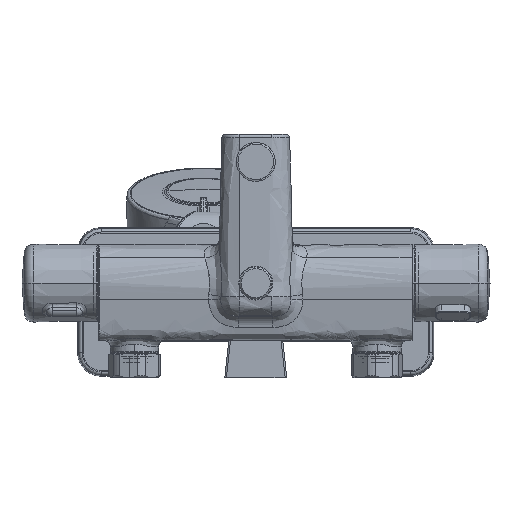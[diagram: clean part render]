
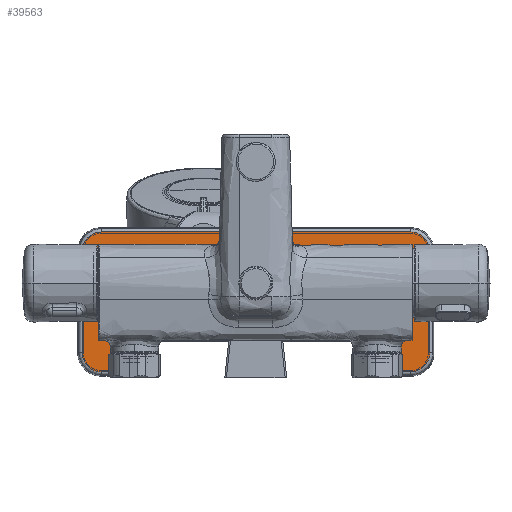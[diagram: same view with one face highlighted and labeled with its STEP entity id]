
A CAD part, front view. The second image highlights one B-rep face of the part: STEP entity #39563.
In plain terms, the highlighted planar face has unit normal (0, -1, 0).
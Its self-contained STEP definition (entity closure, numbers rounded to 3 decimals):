
#110 = CARTESIAN_POINT ( 'NONE',  ( 227.892, 274.92, 286.972 ) ) ;
#548 = CARTESIAN_POINT ( 'NONE',  ( 24.773, 274.92, 361.583 ) ) ;
#591 = CARTESIAN_POINT ( 'NONE',  ( 12.775, 274.92, 356.613 ) ) ;
#673 = CARTESIAN_POINT ( 'NONE',  ( 37.926, 274.92, 287.001 ) ) ;
#682 = LINE ( 'NONE', #26278, #26071 ) ;
#955 = CARTESIAN_POINT ( 'NONE',  ( 12.775, 274.92, 286.972 ) ) ;
#1010 = CARTESIAN_POINT ( 'NONE',  ( 120.246, 274.92, 274.974 ) ) ;
#2040 = CARTESIAN_POINT ( 'NONE',  ( 202.566, 274.92, 287.001 ) ) ;
#2089 = LINE ( 'NONE', #33082, #34950 ) ;
#2486 = EDGE_CURVE ( 'NONE', #17474, #3223, #25484, .T. ) ;
#2895 = CARTESIAN_POINT ( 'NONE',  ( 12.775, 274.92, 349.585 ) ) ;
#3223 = VERTEX_POINT ( 'NONE', #19253 ) ;
#3624 = VERTEX_POINT ( 'NONE', #5604 ) ;
#3738 = PLANE ( 'NONE',  #34652 ) ;
#3873 = VECTOR ( 'NONE', #6702, 1000. ) ;
#3905 = VERTEX_POINT ( 'NONE', #11925 ) ;
#5237 = AXIS2_PLACEMENT_3D ( 'NONE', #17726, #36824, #14507 ) ;
#5342 = VECTOR ( 'NONE', #20028, 1000. ) ;
#5604 = CARTESIAN_POINT ( 'NONE',  ( 195.566, 274.92, 294.001 ) ) ;
#6464 = EDGE_CURVE ( 'NONE', #3905, #38749, #24607, .T. ) ;
#6473 = VERTEX_POINT ( 'NONE', #110 ) ;
#6702 = DIRECTION ( 'NONE',  ( -1., 0., 0. ) ) ;
#6909 = ORIENTED_EDGE ( 'NONE', *, *, #6464, .T. ) ;
#7890 = DIRECTION ( 'NONE',  ( 0., 0., 1. ) ) ;
#8650 = CARTESIAN_POINT ( 'NONE',  ( 227.892, 274.92, 271.966 ) ) ;
#8652 = EDGE_LOOP ( 'NONE', ( #25812, #18621, #31865, #10867, #37094, #34621, #11071, #41052, #13441, #35480, #14729, #29510, #6909, #30424 ) ) ;
#9240 = VECTOR ( 'NONE', #30913, 1000. ) ;
#9334 = LINE ( 'NONE', #36859, #18773 ) ;
#9536 = LINE ( 'NONE', #12284, #31953 ) ;
#10047 = VERTEX_POINT ( 'NONE', #39850 ) ;
#10356 = CARTESIAN_POINT ( 'NONE',  ( 17.744, 274.92, 274.974 ) ) ;
#10513 = EDGE_CURVE ( 'NONE', #38749, #35388, #9334, .T. ) ;
#10616 = CARTESIAN_POINT ( 'NONE',  ( 120.246, 274.92, 361.583 ) ) ;
#10623 = CARTESIAN_POINT ( 'NONE',  ( 202.566, 274.92, 274.974 ) ) ;
#10811 = DIRECTION ( 'NONE',  ( 0., 0., 1. ) ) ;
#10867 = ORIENTED_EDGE ( 'NONE', *, *, #2486, .T. ) ;
#11071 = ORIENTED_EDGE ( 'NONE', *, *, #14928, .T. ) ;
#11247 = CARTESIAN_POINT ( 'NONE',  ( 222.923, 274.92, 361.583 ) ) ;
#11296 = LINE ( 'NONE', #10616, #3873 ) ;
#11718 = EDGE_CURVE ( 'NONE', #10047, #3905, #11296, .T. ) ;
#11761 =( BOUNDED_CURVE ( )  B_SPLINE_CURVE ( 3, ( #37310, #14988, #40520, #21406 ),
 .UNSPECIFIED., .F., .F. ) 
 B_SPLINE_CURVE_WITH_KNOTS ( ( 4, 4 ),
 ( 2.356, 3.927 ),
 .UNSPECIFIED. ) 
 CURVE ( )  GEOMETRIC_REPRESENTATION_ITEM ( )  RATIONAL_B_SPLINE_CURVE ( ( 1., 0.805, 0.805, 1. ) ) 
 REPRESENTATION_ITEM ( '' )  );
#11925 = CARTESIAN_POINT ( 'NONE',  ( 24.773, 274.92, 361.583 ) ) ;
#12222 = LINE ( 'NONE', #8650, #9240 ) ;
#12284 = CARTESIAN_POINT ( 'NONE',  ( 120.246, 274.92, 294.001 ) ) ;
#13441 = ORIENTED_EDGE ( 'NONE', *, *, #15156, .T. ) ;
#14507 = DIRECTION ( 'NONE',  ( 0., 0., 1. ) ) ;
#14540 = DIRECTION ( 'NONE',  ( 0., 0., -1. ) ) ;
#14729 = ORIENTED_EDGE ( 'NONE', *, *, #38571, .T. ) ;
#14928 = EDGE_CURVE ( 'NONE', #17339, #19913, #39956, .T. ) ;
#14988 = CARTESIAN_POINT ( 'NONE',  ( 222.923, 274.92, 274.974 ) ) ;
#15156 = EDGE_CURVE ( 'NONE', #22300, #6473, #11761, .T. ) ;
#15513 = CARTESIAN_POINT ( 'NONE',  ( 195.566, 274.92, 287.001 ) ) ;
#15539 =( BOUNDED_CURVE ( )  B_SPLINE_CURVE ( 3, ( #27140, #30204, #11247, #33541 ),
 .UNSPECIFIED., .F., .T. ) 
 B_SPLINE_CURVE_WITH_KNOTS ( ( 4, 4 ),
 ( 2.356, 3.927 ),
 .UNSPECIFIED. ) 
 CURVE ( )  GEOMETRIC_REPRESENTATION_ITEM ( )  RATIONAL_B_SPLINE_CURVE ( ( 1., 0.805, 0.805, 1. ) ) 
 REPRESENTATION_ITEM ( '' )  );
#15668 = EDGE_CURVE ( 'NONE', #3624, #17339, #33990, .T. ) ;
#15852 = EDGE_CURVE ( 'NONE', #26299, #17474, #2089, .T. ) ;
#16104 = EDGE_CURVE ( 'NONE', #3223, #3624, #9536, .T. ) ;
#16379 = DIRECTION ( 'NONE',  ( 1., 0., 0. ) ) ;
#16828 = CARTESIAN_POINT ( 'NONE',  ( 37.926, 274.92, 274.974 ) ) ;
#17339 = VERTEX_POINT ( 'NONE', #2040 ) ;
#17474 = VERTEX_POINT ( 'NONE', #673 ) ;
#17726 = CARTESIAN_POINT ( 'NONE',  ( 44.926, 274.92, 287.001 ) ) ;
#17754 = EDGE_CURVE ( 'NONE', #35388, #23005, #36319, .T. ) ;
#18621 = ORIENTED_EDGE ( 'NONE', *, *, #19073, .T. ) ;
#18724 = DIRECTION ( 'NONE',  ( 0., 0., 1. ) ) ;
#18773 = VECTOR ( 'NONE', #14540, 1000. ) ;
#19073 = EDGE_CURVE ( 'NONE', #23005, #26299, #682, .T. ) ;
#19253 = CARTESIAN_POINT ( 'NONE',  ( 44.926, 274.92, 294.001 ) ) ;
#19794 = CARTESIAN_POINT ( 'NONE',  ( 12.775, 274.92, 279.943 ) ) ;
#19913 = VERTEX_POINT ( 'NONE', #10623 ) ;
#19926 = CARTESIAN_POINT ( 'NONE',  ( 24.773, 274.92, 274.974 ) ) ;
#19985 = CARTESIAN_POINT ( 'NONE',  ( 12.775, 274.92, 349.585 ) ) ;
#20028 = DIRECTION ( 'NONE',  ( 1., 0., 0. ) ) ;
#21406 = CARTESIAN_POINT ( 'NONE',  ( 227.892, 274.92, 286.972 ) ) ;
#21740 = DIRECTION ( 'NONE',  ( 1., 0., 0. ) ) ;
#22300 = VERTEX_POINT ( 'NONE', #23244 ) ;
#23005 = VERTEX_POINT ( 'NONE', #28440 ) ;
#23244 = CARTESIAN_POINT ( 'NONE',  ( 215.894, 274.92, 274.974 ) ) ;
#24607 =( BOUNDED_CURVE ( )  B_SPLINE_CURVE ( 3, ( #548, #32966, #591, #19985 ),
 .UNSPECIFIED., .F., .T. ) 
 B_SPLINE_CURVE_WITH_KNOTS ( ( 4, 4 ),
 ( 2.356, 3.927 ),
 .UNSPECIFIED. ) 
 CURVE ( )  GEOMETRIC_REPRESENTATION_ITEM ( )  RATIONAL_B_SPLINE_CURVE ( ( 1., 0.805, 0.805, 1. ) ) 
 REPRESENTATION_ITEM ( '' )  );
#24753 = FACE_OUTER_BOUND ( 'NONE', #8652, .T. ) ;
#25477 = DIRECTION ( 'NONE',  ( 0., 0., -1. ) ) ;
#25484 = CIRCLE ( 'NONE', #5237, 7. ) ;
#25812 = ORIENTED_EDGE ( 'NONE', *, *, #17754, .T. ) ;
#26071 = VECTOR ( 'NONE', #16379, 1000. ) ;
#26121 = CARTESIAN_POINT ( 'NONE',  ( 120.246, 274.92, 271.966 ) ) ;
#26278 = CARTESIAN_POINT ( 'NONE',  ( 120.246, 274.92, 274.974 ) ) ;
#26299 = VERTEX_POINT ( 'NONE', #16828 ) ;
#27140 = CARTESIAN_POINT ( 'NONE',  ( 227.892, 274.92, 349.585 ) ) ;
#28172 = LINE ( 'NONE', #1010, #5342 ) ;
#28440 = CARTESIAN_POINT ( 'NONE',  ( 24.773, 274.92, 274.974 ) ) ;
#28557 = CARTESIAN_POINT ( 'NONE',  ( 202.566, 274.92, 271.966 ) ) ;
#29510 = ORIENTED_EDGE ( 'NONE', *, *, #11718, .T. ) ;
#29895 = DIRECTION ( 'NONE',  ( 0., 1., 0. ) ) ;
#30204 = CARTESIAN_POINT ( 'NONE',  ( 227.892, 274.92, 356.613 ) ) ;
#30424 = ORIENTED_EDGE ( 'NONE', *, *, #10513, .T. ) ;
#30913 = DIRECTION ( 'NONE',  ( 0., 0., 1. ) ) ;
#31865 = ORIENTED_EDGE ( 'NONE', *, *, #15852, .T. ) ;
#31953 = VECTOR ( 'NONE', #21740, 1000. ) ;
#32223 = EDGE_CURVE ( 'NONE', #19913, #22300, #28172, .T. ) ;
#32365 = EDGE_CURVE ( 'NONE', #6473, #39471, #12222, .T. ) ;
#32966 = CARTESIAN_POINT ( 'NONE',  ( 17.744, 274.92, 361.583 ) ) ;
#33082 = CARTESIAN_POINT ( 'NONE',  ( 37.926, 274.92, 271.966 ) ) ;
#33541 = CARTESIAN_POINT ( 'NONE',  ( 215.894, 274.92, 361.583 ) ) ;
#33990 = CIRCLE ( 'NONE', #34760, 7. ) ;
#34621 = ORIENTED_EDGE ( 'NONE', *, *, #15668, .T. ) ;
#34652 = AXIS2_PLACEMENT_3D ( 'NONE', #26121, #29895, #10811 ) ;
#34760 = AXIS2_PLACEMENT_3D ( 'NONE', #15513, #37832, #18724 ) ;
#34950 = VECTOR ( 'NONE', #7890, 1000. ) ;
#35312 = CARTESIAN_POINT ( 'NONE',  ( 227.892, 274.92, 349.585 ) ) ;
#35388 = VERTEX_POINT ( 'NONE', #955 ) ;
#35480 = ORIENTED_EDGE ( 'NONE', *, *, #32365, .T. ) ;
#36319 =( BOUNDED_CURVE ( )  B_SPLINE_CURVE ( 3, ( #39039, #19794, #10356, #19926 ),
 .UNSPECIFIED., .F., .T. ) 
 B_SPLINE_CURVE_WITH_KNOTS ( ( 4, 4 ),
 ( 2.356, 3.927 ),
 .UNSPECIFIED. ) 
 CURVE ( )  GEOMETRIC_REPRESENTATION_ITEM ( )  RATIONAL_B_SPLINE_CURVE ( ( 1., 0.805, 0.805, 1. ) ) 
 REPRESENTATION_ITEM ( '' )  );
#36824 = DIRECTION ( 'NONE',  ( 0., 1., 0. ) ) ;
#36859 = CARTESIAN_POINT ( 'NONE',  ( 12.775, 274.92, 271.966 ) ) ;
#37094 = ORIENTED_EDGE ( 'NONE', *, *, #16104, .T. ) ;
#37310 = CARTESIAN_POINT ( 'NONE',  ( 215.894, 274.92, 274.974 ) ) ;
#37832 = DIRECTION ( 'NONE',  ( 0., 1., 0. ) ) ;
#38571 = EDGE_CURVE ( 'NONE', #39471, #10047, #15539, .T. ) ;
#38749 = VERTEX_POINT ( 'NONE', #2895 ) ;
#39039 = CARTESIAN_POINT ( 'NONE',  ( 12.775, 274.92, 286.972 ) ) ;
#39396 = VECTOR ( 'NONE', #25477, 1000. ) ;
#39471 = VERTEX_POINT ( 'NONE', #35312 ) ;
#39563 = ADVANCED_FACE ( 'NONE', ( #24753 ), #3738, .F. ) ;
#39850 = CARTESIAN_POINT ( 'NONE',  ( 215.894, 274.92, 361.583 ) ) ;
#39956 = LINE ( 'NONE', #28557, #39396 ) ;
#40520 = CARTESIAN_POINT ( 'NONE',  ( 227.892, 274.92, 279.943 ) ) ;
#41052 = ORIENTED_EDGE ( 'NONE', *, *, #32223, .T. ) ;
